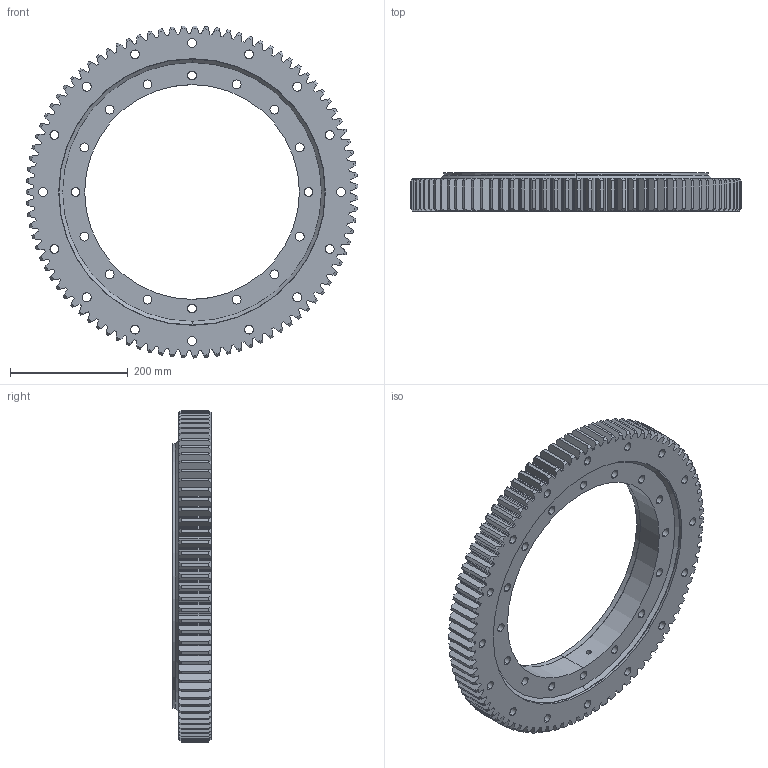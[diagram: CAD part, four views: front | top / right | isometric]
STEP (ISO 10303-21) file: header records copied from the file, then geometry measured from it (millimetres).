
FILE_DESCRIPTION (( 'STEP AP214' ), '1' );
FILE_NAME ('SM2120-2-0563AA.STEP', '2022-11-29T06:34:24', ( '' ), ( '' ), 'SwSTEP 2.0', 'SolidWorks 2020', '' );
FILE_SCHEMA (( 'AUTOMOTIVE_DESIGN' ));
Length unit declared in the file: millimetre
Products named in the file (1): SM2120-2-0563AA
Bounding box: 562.71 x 65 x 562.78 mm (x, y, z)
Volume: 6907685.3 mm3; surface area: 861290 mm2
Topology: 4 solids, 4 shells, 755 faces, 2213 edges, 1474 vertices
Faces by surface type: plane 198, cone 190, cylinder 185, bspline 182
Entity records: 26314 total; most frequent: CARTESIAN_POINT 7497, ORIENTED_EDGE 4426, DIRECTION 3177, EDGE_CURVE 2213, VERTEX_POINT 1474, AXIS2_PLACEMENT_3D 1128, LINE 921, VECTOR 921
